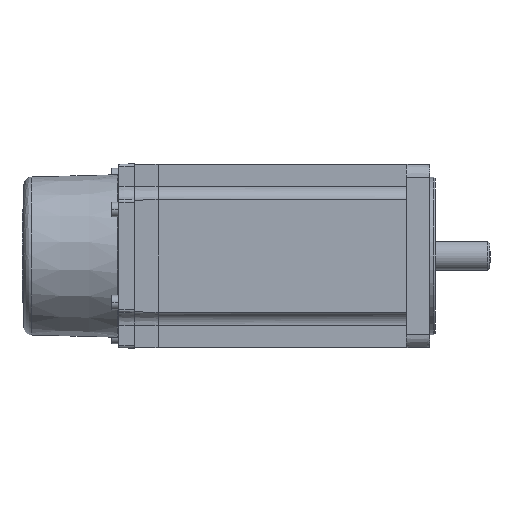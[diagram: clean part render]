
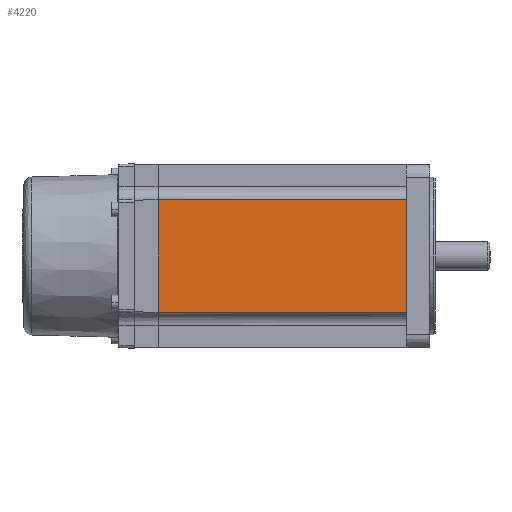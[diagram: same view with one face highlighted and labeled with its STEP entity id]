
A CAD part, front view. The second image highlights one B-rep face of the part: STEP entity #4220.
In plain terms, the highlighted planar face has unit normal (0, -1, 0) as drawn and (0, 1, 0) by its records, which use the part's own axes.
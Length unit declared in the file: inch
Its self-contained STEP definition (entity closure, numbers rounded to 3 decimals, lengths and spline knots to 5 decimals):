
#75 = PLANE ( 'NONE',  #13407 ) ;
#4220 = ADVANCED_FACE ( 'NONE', ( #122388 ), #75, .T. ) ;
#6104 = ORIENTED_EDGE ( 'NONE', *, *, #116254, .F. ) ;
#13407 = AXIS2_PLACEMENT_3D ( 'NONE', #90950, #103957, #26541 ) ;
#22181 = EDGE_CURVE ( 'NONE', #119588, #71656, #62841, .T. ) ;
#26462 = CARTESIAN_POINT ( 'NONE',  ( -1.37795, 1.37795, -1.25984 ) ) ;
#26541 = DIRECTION ( 'NONE',  ( 0., 0., 1. ) ) ;
#35545 = LINE ( 'NONE', #26462, #100218 ) ;
#38186 = CARTESIAN_POINT ( 'NONE',  ( -0.84711, 1.37795, -1.25984 ) ) ;
#44278 = VECTOR ( 'NONE', #64626, 39.37008 ) ;
#51697 = CARTESIAN_POINT ( 'NONE',  ( -1.37795, 1.37795, 2.46457 ) ) ;
#62841 = LINE ( 'NONE', #101399, #127481 ) ;
#63379 = CARTESIAN_POINT ( 'NONE',  ( 0.84711, 1.37795, -1.25984 ) ) ;
#64626 = DIRECTION ( 'NONE',  ( 1., 0., 0. ) ) ;
#67391 = ORIENTED_EDGE ( 'NONE', *, *, #22181, .F. ) ;
#69105 = EDGE_LOOP ( 'NONE', ( #67391, #71019, #6104, #161146 ) ) ;
#71019 = ORIENTED_EDGE ( 'NONE', *, *, #100935, .F. ) ;
#71656 = VERTEX_POINT ( 'NONE', #143477 ) ;
#74594 = DIRECTION ( 'NONE',  ( 0., 0., -1. ) ) ;
#78104 = VERTEX_POINT ( 'NONE', #160593 ) ;
#90950 = CARTESIAN_POINT ( 'NONE',  ( -1.37795, 1.37795, 2.46457 ) ) ;
#100218 = VECTOR ( 'NONE', #116851, 39.37008 ) ;
#100935 = EDGE_CURVE ( 'NONE', #137135, #119588, #35545, .T. ) ;
#101399 = CARTESIAN_POINT ( 'NONE',  ( 0.84711, 1.37795, -1.25984 ) ) ;
#103957 = DIRECTION ( 'NONE',  ( 0., 1., 0. ) ) ;
#112928 = LINE ( 'NONE', #51697, #44278 ) ;
#116254 = EDGE_CURVE ( 'NONE', #78104, #137135, #152857, .T. ) ;
#116851 = DIRECTION ( 'NONE',  ( 1., 0., 0. ) ) ;
#119588 = VERTEX_POINT ( 'NONE', #63379 ) ;
#122388 = FACE_OUTER_BOUND ( 'NONE', #69105, .T. ) ;
#122661 = VECTOR ( 'NONE', #74594, 39.37008 ) ;
#127481 = VECTOR ( 'NONE', #165642, 39.37008 ) ;
#137135 = VERTEX_POINT ( 'NONE', #38186 ) ;
#143477 = CARTESIAN_POINT ( 'NONE',  ( 0.84711, 1.37795, 2.46457 ) ) ;
#151877 = CARTESIAN_POINT ( 'NONE',  ( -0.84711, 1.37795, 4.6063 ) ) ;
#152857 = LINE ( 'NONE', #151877, #122661 ) ;
#160593 = CARTESIAN_POINT ( 'NONE',  ( -0.84711, 1.37795, 2.46457 ) ) ;
#161146 = ORIENTED_EDGE ( 'NONE', *, *, #162930, .T. ) ;
#162930 = EDGE_CURVE ( 'NONE', #78104, #71656, #112928, .T. ) ;
#165642 = DIRECTION ( 'NONE',  ( 0., 0., 1. ) ) ;
